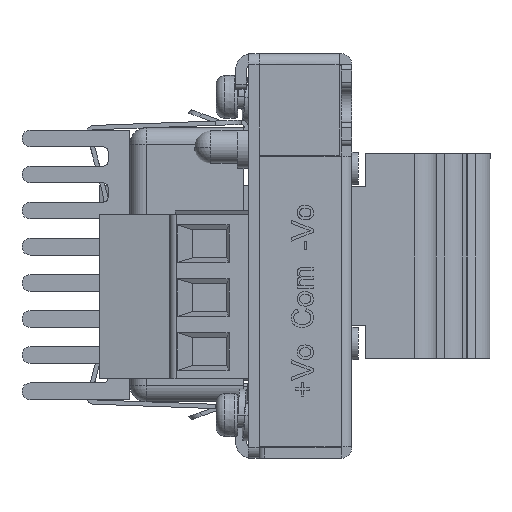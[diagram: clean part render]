
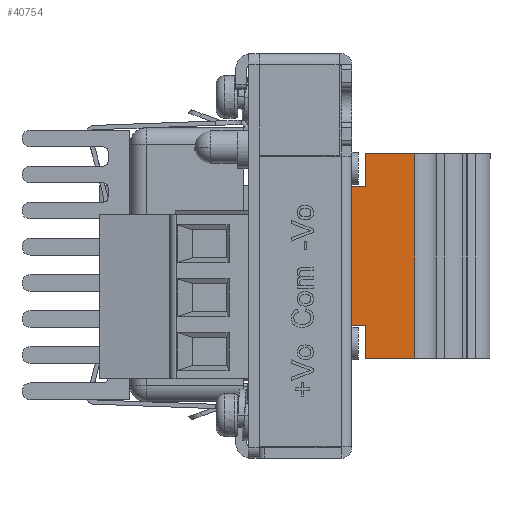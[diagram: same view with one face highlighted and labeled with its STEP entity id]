
A CAD part, left-side view. The second image highlights one B-rep face of the part: STEP entity #40754.
In plain terms, the highlighted planar face has unit normal (-1, 0, 0).
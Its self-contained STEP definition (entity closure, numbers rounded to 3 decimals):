
#1553 = PLANE ( 'NONE',  #92823 ) ;
#2033 = DIRECTION ( 'NONE',  ( 1., 0., 0. ) ) ;
#2913 = VERTEX_POINT ( 'NONE', #9814 ) ;
#3609 = VERTEX_POINT ( 'NONE', #14440 ) ;
#7591 = DIRECTION ( 'NONE',  ( 0., -1., 0. ) ) ;
#8543 = ORIENTED_EDGE ( 'NONE', *, *, #29288, .T. ) ;
#9814 = CARTESIAN_POINT ( 'NONE',  ( -25.603, -12.655, 107. ) ) ;
#9909 = CARTESIAN_POINT ( 'NONE',  ( -25.603, -8.155, 107. ) ) ;
#9948 = VERTEX_POINT ( 'NONE', #51523 ) ;
#14440 = CARTESIAN_POINT ( 'NONE',  ( -25.603, -8.155, 103.95 ) ) ;
#16214 = CARTESIAN_POINT ( 'NONE',  ( -25.603, -12.655, 88. ) ) ;
#20669 = VECTOR ( 'NONE', #22148, 1000. ) ;
#22020 = CARTESIAN_POINT ( 'NONE',  ( -25.603, -6.855, 91.05 ) ) ;
#22148 = DIRECTION ( 'NONE',  ( 0., 0., 1. ) ) ;
#25609 = EDGE_CURVE ( 'NONE', #9948, #3609, #90020, .T. ) ;
#28593 = EDGE_LOOP ( 'NONE', ( #73821, #85551, #55020, #33210, #37170, #78037, #8543, #52126 ) ) ;
#29288 = EDGE_CURVE ( 'NONE', #58466, #88311, #88185, .T. ) ;
#31138 = LINE ( 'NONE', #16214, #60617 ) ;
#33210 = ORIENTED_EDGE ( 'NONE', *, *, #46277, .T. ) ;
#33443 = CARTESIAN_POINT ( 'NONE',  ( -25.603, -12.655, 88. ) ) ;
#36849 = CARTESIAN_POINT ( 'NONE',  ( -25.603, -6.855, 103.95 ) ) ;
#37088 = CARTESIAN_POINT ( 'NONE',  ( -25.603, -12.655, 107. ) ) ;
#37170 = ORIENTED_EDGE ( 'NONE', *, *, #25609, .F. ) ;
#40754 = ADVANCED_FACE ( 'NONE', ( #73566 ), #1553, .F. ) ;
#40784 = DIRECTION ( 'NONE',  ( 0., 0., -1. ) ) ;
#40851 = VECTOR ( 'NONE', #64691, 1000. ) ;
#41279 = CARTESIAN_POINT ( 'NONE',  ( -25.603, -12.655, 107. ) ) ;
#45183 = VECTOR ( 'NONE', #66354, 1000. ) ;
#45794 = LINE ( 'NONE', #75275, #20669 ) ;
#46277 = EDGE_CURVE ( 'NONE', #87007, #3609, #62004, .T. ) ;
#48615 = EDGE_CURVE ( 'NONE', #78928, #64167, #31138, .T. ) ;
#51523 = CARTESIAN_POINT ( 'NONE',  ( -25.603, -6.855, 103.95 ) ) ;
#52126 = ORIENTED_EDGE ( 'NONE', *, *, #65196, .T. ) ;
#53167 = DIRECTION ( 'NONE',  ( 0., -1., 0. ) ) ;
#55020 = ORIENTED_EDGE ( 'NONE', *, *, #91616, .F. ) ;
#58079 = CARTESIAN_POINT ( 'NONE',  ( -25.603, -6.855, 91.05 ) ) ;
#58466 = VERTEX_POINT ( 'NONE', #58079 ) ;
#60617 = VECTOR ( 'NONE', #7591, 1000. ) ;
#62004 = LINE ( 'NONE', #9909, #74152 ) ;
#62157 = EDGE_CURVE ( 'NONE', #2913, #64167, #91549, .T. ) ;
#63947 = DIRECTION ( 'NONE',  ( 0., 0., -1. ) ) ;
#64167 = VERTEX_POINT ( 'NONE', #33443 ) ;
#64691 = DIRECTION ( 'NONE',  ( 0., -1., 0. ) ) ;
#65196 = EDGE_CURVE ( 'NONE', #88311, #78928, #67627, .T. ) ;
#66354 = DIRECTION ( 'NONE',  ( 0., -1., 0. ) ) ;
#66734 = VECTOR ( 'NONE', #63947, 1000. ) ;
#66908 = VECTOR ( 'NONE', #80935, 1000. ) ;
#67627 = LINE ( 'NONE', #88446, #95116 ) ;
#73214 = CARTESIAN_POINT ( 'NONE',  ( -25.603, -8.155, 88. ) ) ;
#73566 = FACE_OUTER_BOUND ( 'NONE', #28593, .T. ) ;
#73821 = ORIENTED_EDGE ( 'NONE', *, *, #48615, .T. ) ;
#74152 = VECTOR ( 'NONE', #40784, 1000. ) ;
#74392 = CARTESIAN_POINT ( 'NONE',  ( -25.603, -8.155, 91.05 ) ) ;
#74444 = DIRECTION ( 'NONE',  ( 0., 0., -1. ) ) ;
#75275 = CARTESIAN_POINT ( 'NONE',  ( -25.603, -6.855, 103.95 ) ) ;
#75466 = CARTESIAN_POINT ( 'NONE',  ( -25.603, -12.655, 107. ) ) ;
#78037 = ORIENTED_EDGE ( 'NONE', *, *, #90866, .F. ) ;
#78928 = VERTEX_POINT ( 'NONE', #73214 ) ;
#80935 = DIRECTION ( 'NONE',  ( 0., -1., 0. ) ) ;
#84106 = CARTESIAN_POINT ( 'NONE',  ( -25.603, -8.155, 107. ) ) ;
#85551 = ORIENTED_EDGE ( 'NONE', *, *, #62157, .F. ) ;
#87007 = VERTEX_POINT ( 'NONE', #84106 ) ;
#88185 = LINE ( 'NONE', #22020, #66908 ) ;
#88311 = VERTEX_POINT ( 'NONE', #74392 ) ;
#88446 = CARTESIAN_POINT ( 'NONE',  ( -25.603, -8.155, 107. ) ) ;
#90020 = LINE ( 'NONE', #36849, #45183 ) ;
#90866 = EDGE_CURVE ( 'NONE', #58466, #9948, #45794, .T. ) ;
#91549 = LINE ( 'NONE', #41279, #66734 ) ;
#91616 = EDGE_CURVE ( 'NONE', #87007, #2913, #95180, .T. ) ;
#92823 = AXIS2_PLACEMENT_3D ( 'NONE', #75466, #2033, #53167 ) ;
#95116 = VECTOR ( 'NONE', #74444, 1000. ) ;
#95180 = LINE ( 'NONE', #37088, #40851 ) ;
